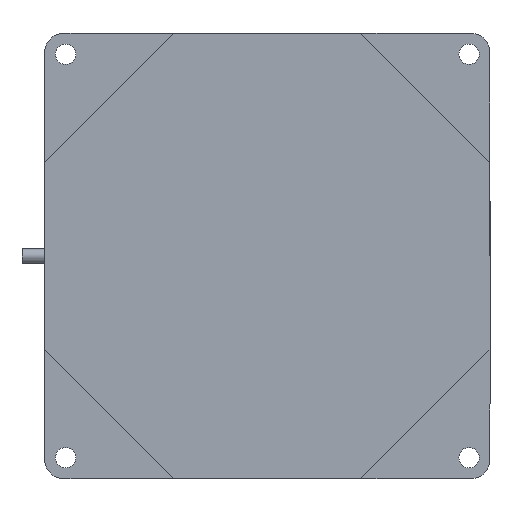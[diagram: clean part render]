
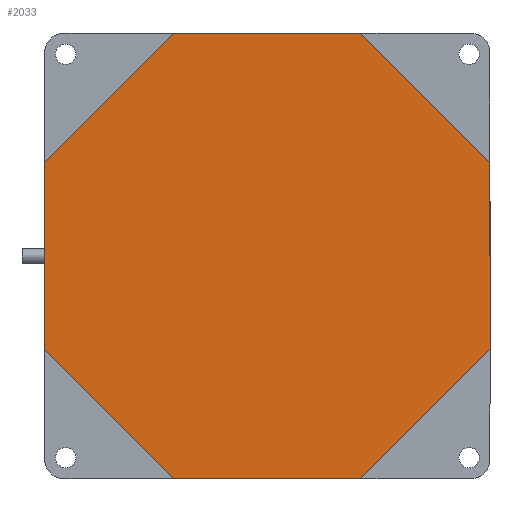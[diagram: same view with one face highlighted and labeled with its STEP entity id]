
A CAD part, front view. The second image highlights one B-rep face of the part: STEP entity #2033.
In plain terms, the highlighted planar face has unit normal (0, -1, 0).
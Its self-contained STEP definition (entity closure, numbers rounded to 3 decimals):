
#7 = CARTESIAN_POINT ( 'NONE',  ( 29., 0.2, 69. ) ) ;
#151 = ORIENTED_EDGE ( 'NONE', *, *, #488, .T. ) ;
#261 = DIRECTION ( 'NONE',  ( 0., 0., -1. ) ) ;
#293 = LINE ( 'NONE', #406, #1290 ) ;
#347 = VECTOR ( 'NONE', #3050, 1000. ) ;
#356 = CARTESIAN_POINT ( 'NONE',  ( 29., 0.2, -69. ) ) ;
#406 = CARTESIAN_POINT ( 'NONE',  ( -69., 0.2, -29. ) ) ;
#488 = EDGE_CURVE ( 'NONE', #1714, #1742, #2469, .T. ) ;
#505 = CARTESIAN_POINT ( 'NONE',  ( -69., 0.2, -29. ) ) ;
#547 = VERTEX_POINT ( 'NONE', #7 ) ;
#583 = DIRECTION ( 'NONE',  ( 0., 0., 1. ) ) ;
#619 = CARTESIAN_POINT ( 'NONE',  ( 69., 0.2, -29. ) ) ;
#638 = CARTESIAN_POINT ( 'NONE',  ( 0., 0.2, 0. ) ) ;
#685 = EDGE_CURVE ( 'NONE', #3977, #1304, #830, .T. ) ;
#726 = ORIENTED_EDGE ( 'NONE', *, *, #1130, .T. ) ;
#830 = LINE ( 'NONE', #2324, #3752 ) ;
#902 = ORIENTED_EDGE ( 'NONE', *, *, #3253, .T. ) ;
#938 = LINE ( 'NONE', #1757, #347 ) ;
#961 = ORIENTED_EDGE ( 'NONE', *, *, #685, .T. ) ;
#973 = CARTESIAN_POINT ( 'NONE',  ( -29., 0.2, 69. ) ) ;
#1043 = ORIENTED_EDGE ( 'NONE', *, *, #1201, .T. ) ;
#1100 = LINE ( 'NONE', #3704, #2247 ) ;
#1130 = EDGE_CURVE ( 'NONE', #1304, #3210, #3442, .T. ) ;
#1194 = DIRECTION ( 'NONE',  ( 0., 0., -1. ) ) ;
#1201 = EDGE_CURVE ( 'NONE', #4043, #547, #3424, .T. ) ;
#1223 = CARTESIAN_POINT ( 'NONE',  ( 69., 0.2, -29. ) ) ;
#1290 = VECTOR ( 'NONE', #2895, 1000. ) ;
#1304 = VERTEX_POINT ( 'NONE', #3307 ) ;
#1334 = VECTOR ( 'NONE', #583, 1000. ) ;
#1387 = ORIENTED_EDGE ( 'NONE', *, *, #3462, .T. ) ;
#1415 = ORIENTED_EDGE ( 'NONE', *, *, #3575, .T. ) ;
#1459 = EDGE_CURVE ( 'NONE', #1742, #2445, #1100, .T. ) ;
#1579 = PLANE ( 'NONE',  #3312 ) ;
#1640 = FACE_OUTER_BOUND ( 'NONE', #2899, .T. ) ;
#1714 = VERTEX_POINT ( 'NONE', #973 ) ;
#1742 = VERTEX_POINT ( 'NONE', #3507 ) ;
#1757 = CARTESIAN_POINT ( 'NONE',  ( -29., 0.2, 69. ) ) ;
#1763 = VECTOR ( 'NONE', #4130, 1000. ) ;
#2033 = ADVANCED_FACE ( 'NONE', ( #1640 ), #1579, .T. ) ;
#2162 = DIRECTION ( 'NONE',  ( -0.707, 0., -0.707 ) ) ;
#2247 = VECTOR ( 'NONE', #1194, 1000. ) ;
#2324 = CARTESIAN_POINT ( 'NONE',  ( -29., 0.2, -69. ) ) ;
#2366 = CARTESIAN_POINT ( 'NONE',  ( 69., 0.2, 29. ) ) ;
#2445 = VERTEX_POINT ( 'NONE', #505 ) ;
#2469 = LINE ( 'NONE', #3457, #2796 ) ;
#2674 = ORIENTED_EDGE ( 'NONE', *, *, #1459, .T. ) ;
#2796 = VECTOR ( 'NONE', #2162, 1000. ) ;
#2848 = DIRECTION ( 'NONE',  ( 0., -1., 0. ) ) ;
#2895 = DIRECTION ( 'NONE',  ( 0.707, 0., -0.707 ) ) ;
#2899 = EDGE_LOOP ( 'NONE', ( #1043, #1387, #151, #2674, #902, #961, #726, #1415 ) ) ;
#2935 = DIRECTION ( 'NONE',  ( 1., 0., 0. ) ) ;
#3050 = DIRECTION ( 'NONE',  ( -1., 0., 0. ) ) ;
#3210 = VERTEX_POINT ( 'NONE', #619 ) ;
#3253 = EDGE_CURVE ( 'NONE', #2445, #3977, #293, .T. ) ;
#3307 = CARTESIAN_POINT ( 'NONE',  ( 29., 0.2, -69. ) ) ;
#3312 = AXIS2_PLACEMENT_3D ( 'NONE', #638, #2848, #261 ) ;
#3423 = LINE ( 'NONE', #1223, #1334 ) ;
#3424 = LINE ( 'NONE', #3931, #3631 ) ;
#3442 = LINE ( 'NONE', #356, #1763 ) ;
#3457 = CARTESIAN_POINT ( 'NONE',  ( -69., 0.2, 29. ) ) ;
#3462 = EDGE_CURVE ( 'NONE', #547, #1714, #938, .T. ) ;
#3507 = CARTESIAN_POINT ( 'NONE',  ( -69., 0.2, 29. ) ) ;
#3575 = EDGE_CURVE ( 'NONE', #3210, #4043, #3423, .T. ) ;
#3581 = DIRECTION ( 'NONE',  ( -0.707, 0., 0.707 ) ) ;
#3631 = VECTOR ( 'NONE', #3581, 1000. ) ;
#3704 = CARTESIAN_POINT ( 'NONE',  ( -69., 0.2, -29. ) ) ;
#3752 = VECTOR ( 'NONE', #2935, 1000. ) ;
#3931 = CARTESIAN_POINT ( 'NONE',  ( 29., 0.2, 69. ) ) ;
#3976 = CARTESIAN_POINT ( 'NONE',  ( -29., 0.2, -69. ) ) ;
#3977 = VERTEX_POINT ( 'NONE', #3976 ) ;
#4043 = VERTEX_POINT ( 'NONE', #2366 ) ;
#4130 = DIRECTION ( 'NONE',  ( 0.707, 0., 0.707 ) ) ;
